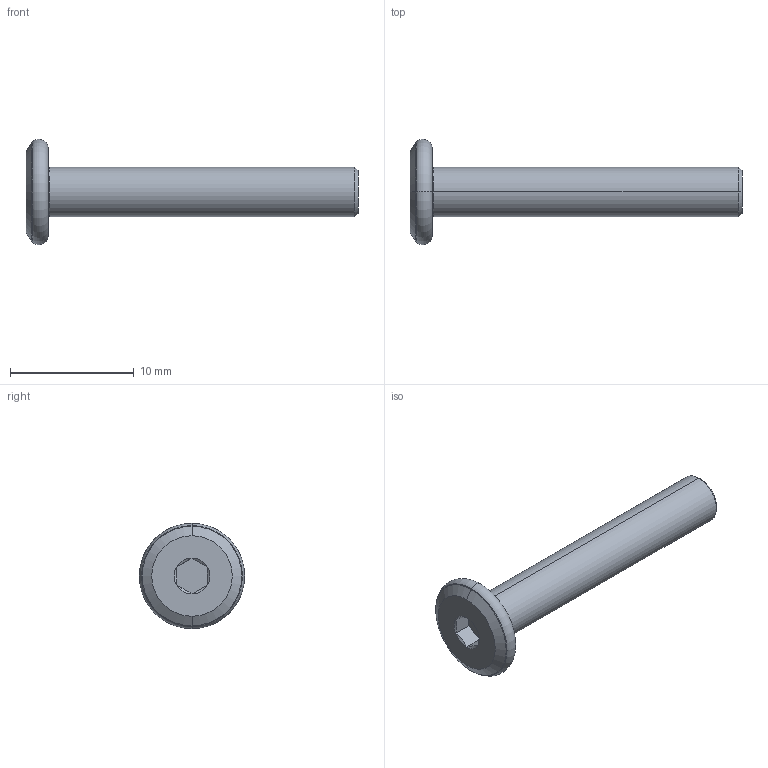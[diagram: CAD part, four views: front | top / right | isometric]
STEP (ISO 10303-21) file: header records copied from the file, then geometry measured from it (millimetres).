
FILE_DESCRIPTION (( 'STEP AP203' ), '1' );
FILE_NAME ('LGD-304D-M4x25.STEP', '2026-08-13T04:47:53', ( '' ), ( '' ), 'SwSTEP 2.0', 'SolidWorks 2020', '' );
FILE_SCHEMA (( 'CONFIG_CONTROL_DESIGN' ));
Length unit declared in the file: millimetre
Products named in the file (1): LGD-304D-M4x25
Bounding box: 26.8 x 8.5 x 8.5 mm (x, y, z)
Volume: 396.1 mm3; surface area: 461.9 mm2
Topology: 1 solids, 1 shells, 28 faces, 52 edges, 28 vertices
Faces by surface type: cone 10, plane 10, torus 6, cylinder 2
Entity records: 791 total; most frequent: CARTESIAN_POINT 151, DIRECTION 132, ORIENTED_EDGE 104, AXIS2_PLACEMENT_3D 57, EDGE_CURVE 52, EDGE_LOOP 30, FACE_OUTER_BOUND 28, ADVANCED_FACE 28
